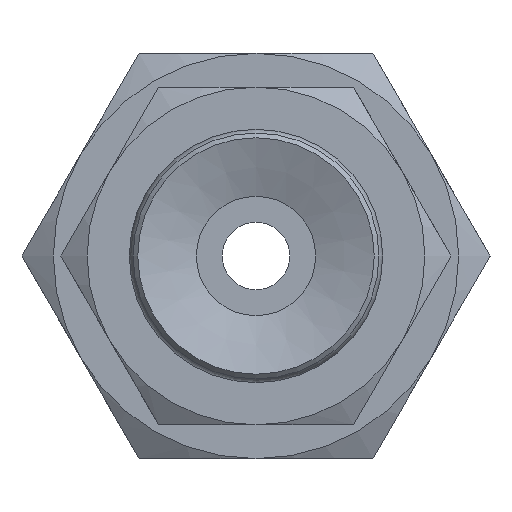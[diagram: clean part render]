
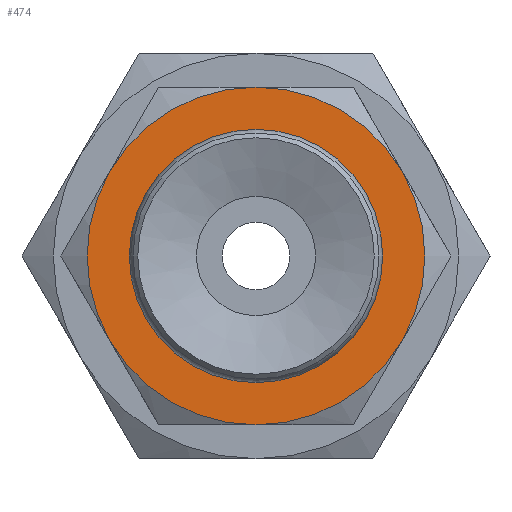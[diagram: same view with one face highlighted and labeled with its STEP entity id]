
A CAD part, front view. The second image highlights one B-rep face of the part: STEP entity #474.
In plain terms, the highlighted planar face has unit normal (0, -1, 0).
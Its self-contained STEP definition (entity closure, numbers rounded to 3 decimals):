
#474=ADVANCED_FACE('',(#627,#628),#629,.T.);
#627=FACE_BOUND('',#945,.T.);
#628=FACE_OUTER_BOUND('',#946,.T.);
#629=PLANE('',#947);
#945=EDGE_LOOP('',(#1347));
#946=EDGE_LOOP('',(#1348,#1349,#1350,#1351,#1352,#1353));
#947=AXIS2_PLACEMENT_3D('',#1354,#1355,#1356);
#1347=ORIENTED_EDGE('',*,*,#2058,.F.);
#1348=ORIENTED_EDGE('',*,*,#2032,.T.);
#1349=ORIENTED_EDGE('',*,*,#2066,.T.);
#1350=ORIENTED_EDGE('',*,*,#2046,.T.);
#1351=ORIENTED_EDGE('',*,*,#2048,.T.);
#1352=ORIENTED_EDGE('',*,*,#2067,.T.);
#1353=ORIENTED_EDGE('',*,*,#2068,.T.);
#1354=CARTESIAN_POINT('',(2.0,0.,0.0));
#1355=DIRECTION('',(0.0,-1.0,0.0));
#1356=DIRECTION('',(0.0,0.0,-1.0));
#2032=EDGE_CURVE('',#2249,#2255,#2257,.T.);
#2046=EDGE_CURVE('',#2280,#2273,#2282,.T.);
#2048=EDGE_CURVE('',#2273,#2283,#2285,.T.);
#2058=EDGE_CURVE('',#2299,#2299,#2300,.T.);
#2066=EDGE_CURVE('',#2255,#2280,#2314,.T.);
#2067=EDGE_CURVE('',#2283,#2232,#2315,.T.);
#2068=EDGE_CURVE('',#2232,#2249,#2316,.T.);
#2232=VERTEX_POINT('',#2600);
#2249=VERTEX_POINT('',#2630);
#2255=VERTEX_POINT('',#2643);
#2257=CIRCLE('',#2647,5.0);
#2273=VERTEX_POINT('',#2675);
#2280=VERTEX_POINT('',#2689);
#2282=CIRCLE('',#2693,5.0);
#2283=VERTEX_POINT('',#2694);
#2285=CIRCLE('',#2698,5.0);
#2299=VERTEX_POINT('',#2717);
#2300=CIRCLE('',#2718,2.0);
#2314=CIRCLE('',#2734,5.0);
#2315=CIRCLE('',#2735,5.0);
#2316=CIRCLE('',#2736,5.0);
#2600=CARTESIAN_POINT('',(-4.33,0.0,-2.5));
#2630=CARTESIAN_POINT('',(0.0,0.0,-5.0));
#2643=CARTESIAN_POINT('',(4.33,0.0,-2.5));
#2647=AXIS2_PLACEMENT_3D('',#3338,#3339,#3340);
#2675=CARTESIAN_POINT('',(0.0,0.0,5.0));
#2689=CARTESIAN_POINT('',(4.33,0.0,2.5));
#2693=AXIS2_PLACEMENT_3D('',#3347,#3348,#3349);
#2694=CARTESIAN_POINT('',(-4.33,0.,2.5));
#2698=AXIS2_PLACEMENT_3D('',#3350,#3351,#3352);
#2717=CARTESIAN_POINT('',(0.0,0.,-2.0));
#2718=AXIS2_PLACEMENT_3D('',#3372,#3373,#3374);
#2734=AXIS2_PLACEMENT_3D('',#3393,#3394,#3395);
#2735=AXIS2_PLACEMENT_3D('',#3396,#3397,#3398);
#2736=AXIS2_PLACEMENT_3D('',#3399,#3400,#3401);
#3338=CARTESIAN_POINT('',(0.0,0.,0.0));
#3339=DIRECTION('',(0.0,-1.0,0.0));
#3340=DIRECTION('',(0.0,0.0,-1.0));
#3347=CARTESIAN_POINT('',(0.0,0.,0.0));
#3348=DIRECTION('',(0.0,-1.0,0.0));
#3349=DIRECTION('',(0.0,0.0,-1.0));
#3350=CARTESIAN_POINT('',(0.0,0.,0.0));
#3351=DIRECTION('',(0.0,-1.0,0.0));
#3352=DIRECTION('',(0.0,0.0,-1.0));
#3372=CARTESIAN_POINT('',(0.0,0.,0.0));
#3373=DIRECTION('',(0.0,-1.0,0.0));
#3374=DIRECTION('',(0.0,0.0,-1.0));
#3393=CARTESIAN_POINT('',(0.0,0.,0.0));
#3394=DIRECTION('',(0.0,-1.0,0.0));
#3395=DIRECTION('',(0.0,0.0,-1.0));
#3396=CARTESIAN_POINT('',(0.0,0.,0.0));
#3397=DIRECTION('',(0.0,-1.0,0.0));
#3398=DIRECTION('',(0.0,0.0,-1.0));
#3399=CARTESIAN_POINT('',(0.0,0.,0.0));
#3400=DIRECTION('',(0.0,-1.0,0.0));
#3401=DIRECTION('',(0.0,0.0,-1.0));
